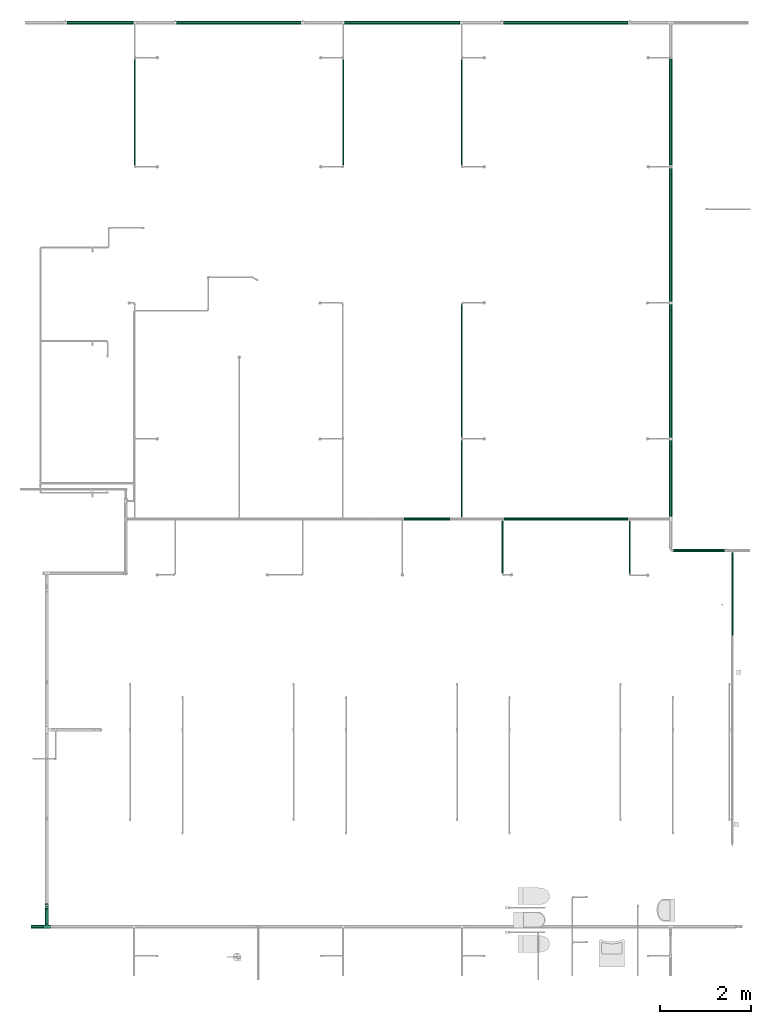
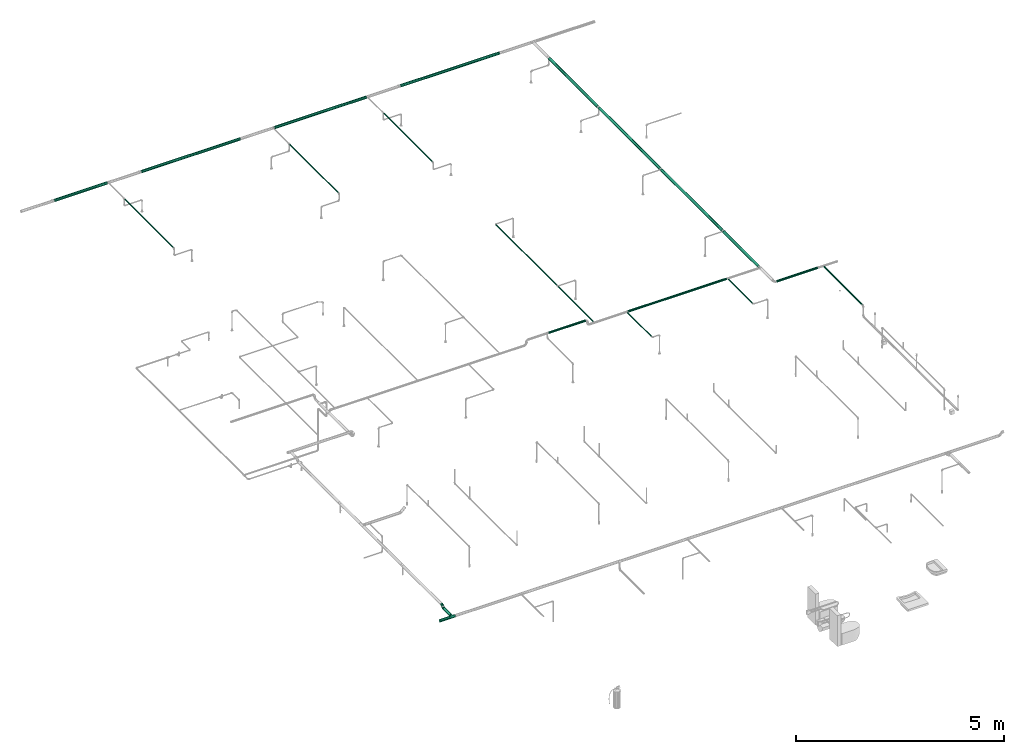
# One storey, part 2 of 95: 21 flow segments, 3 flow fittings.
"""IFC2X3 building model written with IfcOpenShell, lengths in millimetres."""

from ifc_helpers import new_model, entity, si_unit, converted_unit, derived_unit, direction, frame, origin_with_axes, origin_2d_with_axis, place, context, subcontext, project, spatial, hollow_circle, extrude, open_shell, surface_model, source, transform, mapped, type_object, element, save


model = new_model("IFC2X3")

# Units and contexts
model_context = context("Model", 3, precision=0.01, world=frame((0.0, 4.29681676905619e-09, 0.0)), true_north=direction((4.01073788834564e-13, 1.0)))
plan_context = context("Plan", 3, precision=0.01, world=frame((0.0, 4.29681676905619e-09, 0.0)), true_north=direction((4.01073788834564e-13, 1.0)))
body_context = subcontext(model_context, "Body", "Model", "MODEL_VIEW")
ifc_project = project(units=[converted_unit("PLANEANGLEUNIT", "DEGREE", entity("IfcPositiveLengthMeasure", 0.0174532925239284), si_unit("PLANEANGLEUNIT", "RADIAN"), dimensions=[0, 0, 0, 0, 0, 0, 0]), si_unit("AREAUNIT", "SQUARE_METRE"), si_unit("LENGTHUNIT", "METRE", prefix="MILLI"), si_unit("MASSUNIT", "GRAM", prefix="KILO"), si_unit("POWERUNIT", "WATT"), si_unit("PRESSUREUNIT", "PASCAL"), si_unit("FORCEUNIT", "NEWTON", prefix="KILO"), si_unit("ELECTRICVOLTAGEUNIT", "VOLT"), si_unit("ELECTRICCURRENTUNIT", "AMPERE"), si_unit("THERMODYNAMICTEMPERATUREUNIT", "DEGREE_CELSIUS"), si_unit("TIMEUNIT", "SECOND"), si_unit("VOLUMEUNIT", "CUBIC_METRE"), derived_unit("LINEARVELOCITYUNIT", [(si_unit("LENGTHUNIT", "METRE"), 1), (si_unit("TIMEUNIT", "SECOND"), -1)]), derived_unit("VOLUMETRICFLOWRATEUNIT", [(si_unit("VOLUMEUNIT", "CUBIC_METRE"), 1), (si_unit("TIMEUNIT", "SECOND"), -1)]), derived_unit("THERMALTRANSMITTANCEUNIT", [(si_unit("POWERUNIT", "WATT"), 1), (si_unit("THERMODYNAMICTEMPERATUREUNIT", "KELVIN"), -1), (si_unit("AREAUNIT", "SQUARE_METRE"), -1)]), derived_unit("SOUNDPRESSUREUNIT", [(si_unit("PRESSUREUNIT", "PASCAL"), 1)])], contexts=[model_context, plan_context])

# Site, building, storey
site_placement = place(None, frame((0.0, -4.29681676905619e-09, 0.0), z_axis=(0.0, 0.0, 1.0), x_axis=(1.0, 0.0, 0.0)))
site = spatial("IfcSite", under=ifc_project, at=site_placement, CompositionType="ELEMENT")
building_placement = place(site_placement, frame((0.0, 4.29681676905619e-09, 0.0), z_axis=(0.0, 0.0, 1.0), x_axis=(1.0, 0.0, 0.0)))
building = spatial("IfcBuilding", under=site, at=building_placement, Name="mc-building", CompositionType="ELEMENT")
storey_placement = place(building_placement, frame((0.0, 0.0, 210900.0), z_axis=(0.0, 0.0, 1.0), x_axis=(1.0, 0.0, 0.0)))
storey = spatial("IfcBuildingStorey", under=building, at=storey_placement, Name="Nivå F", CompositionType="ELEMENT", Elevation=210900.0)

# Flow fittings
pipe_fitting_type_1 = type_object("IfcPipeFittingType", Name="magi_pipe_fe_tee_centric_90_NOR", PredefinedType="JUNCTION")
shared_shape_1 = source(origin_with_axes(), body_context, "Body", "SurfaceModel", [
    surface_model("IfcShellBasedSurfaceModel", [(-76.2, 19.05, -32.99557), (-76.2, 9.86101, -36.80177), (-76.2, 0.0, -38.1), (-76.2, 26.94077, -26.94077), (-76.2, 36.80177, -9.86101), (-76.2, 32.99557, -19.05), (-76.2, -19.05, -32.99557), (-76.2, -26.94077, -26.94077), (-76.2, -9.86101, -36.80177), (-76.2, 38.1, 0.0), (-76.2, 36.80177, 9.86101), (-76.2, -38.1, 0.0), (-76.2, -36.80177, -9.86101), (-76.2, -32.99557, -19.05), (-76.2, 32.99557, 19.05), (-76.2, -36.80177, 9.86101), (-76.2, 19.05, 32.99557), (-76.2, 26.94077, 26.94077), (-76.2, 0.0, 38.1), (-76.2, 9.86101, 36.80177), (-76.2, -26.94077, 26.94077), (-76.2, -32.99557, 19.05), (-76.2, -9.86101, 36.80177), (-76.2, -19.05, 32.99557), (76.2, 0.0, -38.1), (76.2, -36.80177, 9.86101), (76.2, -38.1, 0.0), (76.2, 36.80177, -9.86101), (76.2, 9.86101, -36.80177), (76.2, 19.05, -32.99557), (76.2, 26.94077, -26.94077), (76.2, 32.99557, -19.05), (76.2, -9.86101, -36.80177), (76.2, -26.94077, -26.94077), (76.2, -19.05, -32.99557), (76.2, -32.99557, -19.05), (76.2, -36.80177, -9.86101), (76.2, 19.05, 32.99557), (76.2, 36.80177, 9.86101), (76.2, 32.99557, 19.05), (76.2, 0.0, 38.1), (76.2, 26.94077, 26.94077), (76.2, 9.86101, 36.80177), (76.2, -32.99557, 19.05), (76.2, -26.94077, 26.94077), (76.2, -19.05, 32.99557), (76.2, -9.86101, 36.80177), (76.2, 38.1, 0.0), (37.03376, -37.03376, 8.95045), (38.1, -38.1, 0.0), (76.2, -34.89867, 14.4555), (35.56052, -35.56052, 12.98504), (34.08727, -34.08727, 17.01964), (18.8305, -18.8305, 33.12132), (76.2, -22.99539, 29.96817), (29.78269, -29.78269, 23.76134), (76.2, -29.96817, 22.99539), (24.5894, -24.5894, 29.10277), (-35.56052, -35.56052, 12.98504), (-76.2, -34.89867, 14.4555), (-34.08727, -34.08727, 17.01964), (-37.03376, -37.03376, 8.95045), (-38.1, -38.1, 0.0), (-18.8305, -18.8305, 33.12132), (-76.2, -22.99539, 29.96817), (-29.78269, -29.78269, 23.76134), (-24.5894, -24.5894, 29.10277), (-76.2, -29.96817, 22.99539), (-12.71924, -12.71924, 35.91422), (6.40528, -6.40528, 37.55772), (12.71924, -12.71924, 35.91422), (0.0, 0.0, 38.1), (-6.40528, -6.40528, 37.55772), (6.40528, -6.40528, -37.55772), (0.0, 0.0, -38.1), (12.71924, -12.71924, -35.91422), (-24.5894, -24.5894, -29.10277), (-76.2, -22.99539, -29.96817), (-35.56052, -35.56052, -12.98504), (-37.03376, -37.03376, -8.95045), (-29.78269, -29.78269, -23.76134), (-76.2, -29.96817, -22.99539), (-6.40528, -6.40528, -37.55772), (-12.71924, -12.71924, -35.91422), (18.8305, -18.8305, -33.12132), (76.2, -22.99539, -29.96817), (24.5894, -24.5894, -29.10277), (-76.2, -34.89867, -14.4555), (-34.08727, -34.08727, -17.01964), (29.78269, -29.78269, -23.76134), (76.2, -29.96817, -22.99539), (37.03376, -37.03376, -8.95045), (35.56052, -35.56052, -12.98504), (34.08727, -34.08727, -17.01964), (76.2, -34.89867, -14.4555), (-18.8305, -18.8305, -33.12132), (0.0, -57.15, -38.1), (9.86101, -57.15, -36.80177), (19.05, -57.15, -32.99557), (26.94077, -57.15, -26.94077), (32.99557, -57.15, -19.05), (36.80177, -57.15, -9.86101), (0.0, -57.15, 38.1), (-26.94077, -57.15, -26.94077), (-9.86101, -57.15, -36.80177), (-19.05, -57.15, -32.99557), (-36.80177, -57.15, -9.86101), (-32.99557, -57.15, -19.05), (-32.99557, -57.15, 19.05), (-36.80177, -57.15, 9.86101), (-38.1, -57.15, 0.0), (19.05, -57.15, 32.99557), (36.80177, -57.15, 9.86101), (32.99557, -57.15, 19.05), (26.94077, -57.15, 26.94077), (9.86101, -57.15, 36.80177), (-26.94077, -57.15, 26.94077), (-19.05, -57.15, 32.99557), (-9.86101, -57.15, 36.80177), (38.1, -57.15, 0.0)], [open_shell([[[0, 1, 2]], [[3, 0, 2]], [[4, 5, 3]], [[6, 7, 8]], [[9, 4, 10]], [[11, 3, 2]], [[4, 3, 11]], [[11, 8, 7]], [[12, 11, 13]], [[7, 13, 11]], [[11, 2, 8]], [[11, 10, 4]], [[14, 10, 11]], [[14, 11, 15]], [[15, 16, 14]], [[17, 14, 16]], [[18, 19, 16]], [[20, 18, 21]], [[15, 21, 18]], [[22, 18, 23]], [[20, 23, 18]], [[18, 16, 15]], [[24, 25, 26]], [[27, 28, 29]], [[30, 31, 27]], [[30, 27, 29]], [[28, 25, 24]], [[32, 33, 34]], [[32, 24, 33]], [[35, 26, 36]], [[26, 35, 33]], [[24, 26, 33]], [[28, 27, 37]], [[27, 38, 37]], [[37, 38, 39]], [[37, 40, 28]], [[37, 39, 41]], [[40, 37, 42]], [[43, 40, 44]], [[25, 28, 43]], [[45, 40, 46]], [[40, 45, 44]], [[40, 43, 28]], [[38, 27, 47]], [[26, 25, 48]], [[48, 49, 26]], [[25, 50, 51]], [[50, 43, 52]], [[45, 53, 54]], [[44, 55, 56]], [[55, 44, 57]], [[43, 55, 52]], [[57, 44, 54]], [[15, 58, 59]], [[60, 59, 58]], [[61, 11, 62]], [[11, 61, 15]], [[15, 61, 58]], [[63, 23, 64]], [[65, 66, 20]], [[65, 67, 21]], [[20, 66, 64]], [[63, 68, 23]], [[65, 21, 60]], [[50, 52, 51]], [[54, 53, 57]], [[46, 40, 69]], [[25, 51, 48]], [[53, 45, 70]], [[69, 70, 46]], [[65, 20, 67]], [[69, 40, 71]], [[70, 45, 46]], [[14, 41, 39]], [[10, 39, 38]], [[16, 42, 37]], [[17, 37, 41]], [[42, 71, 40]], [[9, 38, 47]], [[72, 71, 18]], [[60, 21, 59]], [[72, 22, 68]], [[22, 72, 18]], [[22, 23, 68]], [[71, 19, 18]], [[63, 64, 66]], [[42, 19, 71]], [[16, 19, 42]], [[16, 37, 17]], [[14, 17, 41]], [[10, 14, 39]], [[38, 9, 10]], [[55, 43, 56]], [[3, 31, 30]], [[4, 27, 31]], [[9, 47, 27]], [[0, 30, 29]], [[24, 32, 73]], [[28, 24, 74]], [[73, 32, 75]], [[76, 7, 77]], [[29, 28, 1]], [[32, 34, 75]], [[24, 73, 74]], [[4, 31, 5]], [[0, 3, 30]], [[5, 31, 3]], [[9, 27, 4]], [[12, 78, 79]], [[80, 13, 81]], [[82, 83, 8]], [[74, 82, 2]], [[74, 2, 1]], [[2, 82, 8]], [[83, 6, 8]], [[1, 0, 29]], [[74, 1, 28]], [[84, 85, 86]], [[85, 33, 86]], [[87, 88, 78]], [[84, 34, 85]], [[89, 86, 33]], [[90, 35, 89]], [[34, 84, 75]], [[36, 91, 92]], [[91, 36, 26]], [[93, 94, 92]], [[49, 91, 26]], [[35, 93, 89]], [[76, 77, 95]], [[36, 92, 94]], [[77, 6, 95]], [[7, 76, 80]], [[7, 80, 81]], [[93, 35, 94]], [[95, 6, 83]], [[79, 62, 11]], [[12, 87, 78]], [[88, 87, 13]], [[12, 79, 11]], [[88, 13, 80]], [[89, 33, 90]], [[96, 97, 98]], [[96, 98, 99]], [[99, 100, 101]], [[99, 101, 96]], [[102, 103, 96]], [[104, 103, 105]], [[104, 96, 103]], [[103, 106, 107]], [[103, 108, 106]], [[106, 109, 110]], [[111, 96, 101]], [[112, 113, 101]], [[101, 113, 111]], [[111, 102, 96]], [[111, 113, 114]], [[102, 111, 115]], [[108, 102, 116]], [[109, 106, 108]], [[117, 102, 118]], [[102, 117, 116]], [[102, 108, 103]], [[112, 101, 119]], [[61, 62, 110]], [[109, 61, 110]], [[116, 117, 66]], [[65, 108, 116]], [[60, 109, 108]], [[68, 117, 118]], [[60, 61, 109]], [[66, 65, 116]], [[60, 108, 65]], [[68, 63, 117]], [[102, 71, 72]], [[68, 118, 72]], [[66, 117, 63]], [[72, 118, 102]], [[69, 102, 115]], [[111, 70, 115]], [[113, 112, 52]], [[55, 114, 113]], [[57, 111, 114]], [[48, 112, 119]], [[57, 53, 111]], [[70, 69, 115]], [[53, 70, 111]], [[49, 48, 119]], [[52, 55, 113]], [[48, 52, 112]], [[57, 114, 55]], [[102, 69, 71]], [[49, 119, 91]], [[101, 91, 119]], [[89, 100, 99]], [[99, 98, 86]], [[93, 101, 100]], [[75, 98, 97]], [[93, 91, 101]], [[86, 89, 99]], [[93, 100, 89]], [[75, 84, 98]], [[96, 74, 73]], [[75, 97, 73]], [[86, 98, 84]], [[73, 97, 96]], [[82, 96, 104]], [[105, 83, 104]], [[107, 106, 88]], [[80, 103, 107]], [[76, 105, 103]], [[79, 106, 110]], [[76, 95, 105]], [[83, 82, 104]], [[95, 83, 105]], [[62, 79, 110]], [[88, 80, 107]], [[79, 88, 106]], [[76, 103, 80]], [[96, 82, 74]]])]),
])
flow_fitting_placement = place(storey_placement, frame((520864.85321, 441860.92369, 4310.0), z_axis=(0.0, 0.0, 1.0), x_axis=(-1.0, 0.0, 0.0)))
element("IfcFlowFitting", 1, at=flow_fitting_placement, inside=storey, type_object=pipe_fitting_type_1, Name="magi_pipe_fe_tee_centric_90_NOR", context=body_context, shape_type="MappedRepresentation", body=[
    mapped(shared_shape_1, transform((0.0, 0.0, 0.0), scale=1.0)),
])
pipe_fitting_type_2 = type_object("IfcPipeFittingType", Name="magi_pipe_fe_elbow_short_001", PredefinedType="BEND")
shared_shape_2 = source(origin_with_axes(), body_context, "Body", "SurfaceModel", [
    surface_model("IfcShellBasedSurfaceModel", [(-31.56307, 19.05, -32.99557), (-31.56307, 9.86101, -36.80177), (-31.56307, 0.0, -38.1), (-31.56307, 26.94077, -26.94077), (-31.56307, 36.80177, -9.86101), (-31.56307, 32.99557, -19.05), (-31.56307, -36.80177, 9.86101), (-31.56307, -9.86101, -36.80177), (-31.56307, -26.94077, -26.94077), (-31.56307, -32.99557, -19.05), (-31.56307, -19.05, -32.99557), (-31.56307, -36.80177, -9.86101), (-31.56307, -38.1, 0.0), (-31.56307, 36.80177, 9.86101), (-31.56307, 26.94077, 26.94077), (-31.56307, 32.99557, 19.05), (-31.56307, 9.86101, 36.80177), (-31.56307, 19.05, 32.99557), (-31.56307, -19.05, 32.99557), (-31.56307, 0.0, 38.1), (-31.56307, -32.99557, 19.05), (-31.56307, -26.94077, 26.94077), (-31.56307, -9.86101, 36.80177), (-31.56307, 38.1, 0.0), (15.34568, 29.29125, -36.80177), (29.29125, 15.34568, -36.80177), (22.31846, 22.31846, -38.1), (3.26846, 41.36846, -26.94077), (8.84808, 35.78885, -32.99557), (-1.01293, 45.64985, -19.05), (-3.70432, 48.34125, -9.86101), (41.36846, 3.26846, -26.94077), (48.34125, -3.70432, 9.86101), (48.34125, -3.70432, -9.86101), (35.78885, 8.84808, -32.99557), (45.64985, -1.01293, 19.05), (45.64985, -1.01293, -19.05), (49.25923, -4.62231, 0.0), (22.31846, 22.31846, 38.1), (15.34568, 29.29125, 36.80177), (-4.62231, 49.25923, 0.0), (-3.70432, 48.34125, 9.86101), (-1.01293, 45.64985, 19.05), (3.26846, 41.36846, 26.94077), (8.84808, 35.78885, 32.99557), (35.78885, 8.84808, 32.99557), (41.36846, 3.26846, 26.94077), (29.29125, 15.34568, 36.80177), (9.70384, -23.42713, 21.23198), (-8.42903, -21.53324, 29.39945), (-12.30295, -29.13928, 22.30902), (-12.72994, -35.62057, 0.0), (-1.98006, -34.20532, 0.0), (-8.1322, -35.10083, 6.50594), (29.30408, -11.90509, 22.30902), (-15.09665, -13.97095, 34.82144), (3.91202, -9.44444, 34.34139), (1.1309, 22.90491, 35.56093), (6.8876, 18.03483, 37.54584), (-11.37114, -3.66836, 37.59524), (-10.82238, 26.12754, 31.10505), (-16.802, 31.95247, 24.04366), (20.5539, 0.79599, 34.82144), (-19.08985, 5.27957, 37.86879), (-14.63922, 15.85445, 35.61813), (14.70349, -24.93596, 15.0155), (-6.83146, -32.96227, 13.23115), (11.82908, -28.55793, 8.28106), (-15.69549, 37.89226, 15.65312), (30.57037, -19.0697, 6.50594), (34.18897, -16.18612, 0.0), (-15.26074, 40.82522, 8.00526), (28.13842, -18.47728, 13.23115), (10.63454, 5.44669, 37.59524), (21.18653, -9.26608, 29.39945), (-16.98283, 41.00019, 0.0), (6.39501, -15.43892, 30.38264), (11.80343, -28.49601, 0.0), (25.58693, -22.7867, 0.0), (-11.37114, -3.66836, -37.59524), (-8.1322, -35.10083, -6.50594), (11.82908, -28.55793, -8.28105), (10.63454, 5.44669, -37.59524), (-16.99589, 15.39655, -35.56093), (-17.62282, 7.88229, -37.54584), (-10.713, 34.47461, -24.04366), (21.18653, -9.26608, -29.39945), (-15.69549, 37.89226, -15.65312), (28.13842, -18.47728, -13.23115), (-18.07682, 39.65877, -8.00526), (-0.8593, 21.56228, -35.61813), (-6.83146, -32.96227, -13.23115), (-10.82238, 26.12754, -31.10505), (-12.30295, -29.13928, -22.30902), (-8.42903, -21.53324, -29.39945), (6.39501, -15.43891, -30.38262), (9.70384, -23.42713, -21.23198), (-15.09665, -13.97095, -34.82144), (20.5539, 0.79599, -34.82144), (3.91202, -9.44444, -34.34139), (30.57037, -19.0697, -6.50594), (9.76534, 17.23178, -37.86879), (7.23544, -28.02932, -15.0155), (29.30408, -11.90509, -22.30902), (-3.62384, 8.7487, -37.96612), (-3.62383, 8.74869, 37.96612)], [open_shell([[[0, 1, 2]], [[3, 0, 2]], [[4, 5, 3]], [[6, 3, 2]], [[6, 2, 7]], [[8, 9, 10]], [[10, 9, 6]], [[11, 12, 9]], [[9, 12, 6]], [[10, 6, 7]], [[3, 6, 4]], [[13, 4, 14]], [[15, 13, 14]], [[16, 17, 14]], [[18, 14, 4]], [[16, 14, 19]], [[20, 21, 6]], [[6, 21, 4]], [[22, 19, 18]], [[18, 4, 21]], [[14, 18, 19]], [[23, 4, 13]], [[24, 25, 26]], [[27, 24, 28]], [[27, 29, 30]], [[24, 27, 25]], [[30, 25, 27]], [[31, 32, 33]], [[31, 34, 35]], [[31, 33, 36]], [[37, 33, 32]], [[38, 34, 25]], [[25, 30, 39]], [[40, 41, 42]], [[42, 43, 30]], [[43, 44, 39]], [[39, 30, 43]], [[39, 38, 25]], [[35, 45, 46]], [[32, 31, 35]], [[45, 38, 47]], [[38, 45, 35]], [[38, 35, 34]], [[30, 40, 42]], [[48, 49, 50]], [[51, 52, 53]], [[18, 21, 49]], [[35, 46, 54]], [[55, 49, 56]], [[50, 49, 21]], [[39, 57, 58]], [[22, 18, 55]], [[19, 22, 59]], [[14, 60, 61]], [[45, 47, 62]], [[63, 16, 19]], [[17, 64, 60]], [[6, 51, 53]], [[44, 43, 60]], [[65, 66, 67]], [[60, 14, 17]], [[21, 20, 50]], [[15, 61, 68]], [[13, 15, 68]], [[32, 69, 70]], [[71, 23, 13]], [[72, 65, 67]], [[66, 53, 67]], [[17, 16, 64]], [[38, 58, 73]], [[46, 45, 74]], [[42, 41, 68]], [[73, 47, 38]], [[48, 50, 66]], [[46, 74, 54]], [[74, 45, 62]], [[20, 66, 50]], [[69, 32, 72]], [[48, 54, 74]], [[63, 64, 16]], [[48, 65, 54]], [[13, 68, 71]], [[20, 6, 66]], [[75, 71, 40]], [[49, 76, 56]], [[41, 71, 68]], [[56, 73, 59]], [[42, 68, 61]], [[56, 62, 73]], [[42, 61, 43]], [[39, 44, 57]], [[57, 60, 64]], [[55, 59, 22]], [[15, 14, 61]], [[72, 32, 35]], [[72, 35, 54]], [[76, 48, 74]], [[43, 61, 60]], [[60, 57, 44]], [[49, 55, 18]], [[59, 55, 56]], [[73, 62, 47]], [[74, 62, 56]], [[6, 12, 51]], [[67, 52, 77]], [[6, 53, 66]], [[52, 67, 53]], [[69, 67, 78]], [[70, 69, 78]], [[70, 37, 32]], [[67, 69, 72]], [[38, 39, 58]], [[59, 63, 19]], [[48, 76, 49]], [[74, 56, 76]], [[40, 71, 41]], [[71, 75, 23]], [[54, 65, 72]], [[66, 65, 48]], [[78, 67, 77]], [[7, 2, 79]], [[52, 80, 81]], [[26, 25, 82]], [[83, 84, 1]], [[5, 85, 3]], [[34, 31, 86]], [[87, 85, 5]], [[36, 33, 88]], [[4, 89, 87]], [[28, 24, 90]], [[11, 80, 51]], [[0, 83, 1]], [[80, 11, 91]], [[27, 92, 85]], [[91, 9, 93]], [[93, 8, 94]], [[8, 10, 94]], [[95, 96, 94]], [[11, 9, 91]], [[8, 93, 9]], [[97, 10, 7]], [[98, 82, 25]], [[30, 29, 87]], [[99, 97, 79]], [[23, 75, 89]], [[96, 93, 94]], [[40, 30, 89]], [[99, 79, 82]], [[27, 28, 92]], [[87, 5, 4]], [[29, 85, 87]], [[97, 94, 10]], [[90, 92, 28]], [[84, 79, 2]], [[92, 90, 83]], [[3, 92, 0]], [[33, 70, 100]], [[101, 24, 26]], [[98, 25, 34]], [[102, 88, 81]], [[31, 103, 86]], [[99, 98, 86]], [[31, 36, 103]], [[104, 101, 82]], [[103, 96, 86]], [[104, 82, 79]], [[100, 70, 78]], [[101, 90, 24]], [[104, 84, 83]], [[80, 91, 81]], [[96, 102, 93]], [[86, 95, 99]], [[36, 88, 103]], [[30, 87, 89]], [[96, 103, 88]], [[29, 27, 85]], [[3, 85, 92]], [[92, 83, 0]], [[104, 83, 90]], [[79, 97, 7]], [[94, 97, 99]], [[86, 98, 34]], [[82, 98, 99]], [[51, 80, 52]], [[51, 12, 11]], [[102, 81, 91]], [[100, 81, 88]], [[81, 78, 77]], [[33, 37, 70]], [[81, 100, 78]], [[33, 100, 88]], [[79, 84, 104]], [[2, 1, 84]], [[82, 101, 26]], [[90, 101, 104]], [[96, 95, 86]], [[94, 99, 95]], [[23, 89, 4]], [[89, 75, 40]], [[93, 102, 91]], [[88, 102, 96]], [[52, 81, 77]], [[59, 105, 63]], [[105, 58, 57]], [[105, 59, 73]], [[105, 57, 64]], [[73, 58, 105]], [[64, 63, 105]]])]),
])
for number, where, z_axis, x_axis, name in (
    (2, (520864.85321, 442274.42405, 4310.0), (-1.0, 0.0, 0.0), (0.0, -0.707106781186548, -0.707106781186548), "magi_pipe_fe_elbow_short_001"),
    (3, (520864.85321, 442334.72405, 4370.29999999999), (1.0, 0.0, 0.0), (0.0, -1.0, 0.0), "magi_pipe_fe_elbow_short_001"),
):
    element("IfcFlowFitting", number, at=place(storey_placement, frame(where, z_axis=z_axis, x_axis=x_axis)), inside=storey, type_object=pipe_fitting_type_2, Name=name, context=body_context, shape_type="MappedRepresentation", body=[
        mapped(shared_shape_2, transform((0.0, 0.0, 0.0), scale=1.0)),
    ])

# Flow segments
pipe_segment_type = type_object("IfcPipeSegmentType", Name="Stålrør normaltykke", PredefinedType="RIGIDSEGMENT")
shared_shape_3 = source(origin_with_axes(), body_context, "Body", "SweptSolid", [
    extrude(hollow_circle(Radius=38.0, WallThickness=2.0, at=origin_2d_with_axis()), frame((0.0, 0.0, 0.0), z_axis=(1.0, 0.0, 0.0), x_axis=(0.0, 1.0, 0.0)), (0.0, 0.0, 1.0), 270.3),
])
flow_segment_1_placement = place(storey_placement, frame((520518.38698, 441860.92369, 4310.0), z_axis=(0.0, 0.0, 1.0), x_axis=(1.0, 0.0, 0.0)))
element("IfcFlowSegment", 4, at=flow_segment_1_placement, inside=storey, type_object=pipe_segment_type, Name="Stålrør normaltykke", context=body_context, shape_type="MappedRepresentation", body=[
    mapped(shared_shape_3, transform((0.0, 0.0, 0.0), scale=1.0)),
])
shared_shape_4 = source(origin_with_axes(), body_context, "Body", "SweptSolid", [
    extrude(hollow_circle(Radius=16.9, WallThickness=2.0, at=origin_2d_with_axis()), frame((0.0, 0.0, 0.0), z_axis=(1.0, 0.0, 0.0), x_axis=(0.0, 1.0, 0.0)), (0.0, 0.0, 1.0), 2335.1),
])
for number, where, z_axis, x_axis in (
    (5, (522802.76487, 460966.95899, 4310.0), (0.0, 0.0, 1.0), (0.0, -1.0, 0.0)),
    (6, (527387.9, 460966.95899, 4310.0), (0.0, 0.0, 1.0), (0.0, -1.0, 0.0)),
    (7, (530002.76487, 460966.95899, 4310.0), (0.0, 0.0, 1.0), (0.0, -1.0, 0.0)),
):
    element("IfcFlowSegment", number, at=place(storey_placement, frame(where, z_axis=z_axis, x_axis=x_axis)), inside=storey, type_object=pipe_segment_type, Name="Stålrør normaltykke", context=body_context, shape_type="MappedRepresentation", body=[
        mapped(shared_shape_4, transform((0.0, 0.0, 0.0), scale=1.0)),
    ])
shared_shape_5 = source(origin_with_axes(), body_context, "Body", "SweptSolid", [
    extrude(hollow_circle(Radius=38.0, WallThickness=2.0, at=origin_2d_with_axis()), frame((0.0, 0.0, 0.0), z_axis=(1.0, 0.0, 0.0), x_axis=(0.0, 1.0, 0.0)), (0.0, 0.0, 1.0), 1465.9),
])
flow_segment_2_placement = place(storey_placement, frame((521303.0257, 461774.3, 4310.0), z_axis=(0.0, 0.0, 1.0), x_axis=(1.0, 0.0, 0.0)))
element("IfcFlowSegment", 8, at=flow_segment_2_placement, inside=storey, type_object=pipe_segment_type, Name="Stålrør normaltykke", context=body_context, shape_type="MappedRepresentation", body=[
    mapped(shared_shape_5, transform((0.0, 0.0, 0.0), scale=1.0)),
])
shared_shape_6 = source(origin_with_axes(), body_context, "Body", "SweptSolid", [
    extrude(hollow_circle(Radius=30.1, WallThickness=2.0, at=origin_2d_with_axis()), frame((0.0, 0.0, 0.0), z_axis=(1.0, 0.0, 0.0), x_axis=(0.0, 1.0, 0.0)), (0.0, 0.0, 1.0), 1130.2),
])
flow_segment_3_placement = place(storey_placement, frame((535793.34809, 450142.9624, 4310.0), z_axis=(0.0, 0.0, 1.0), x_axis=(-1.0, 0.0, 0.0)))
element("IfcFlowSegment", 9, at=flow_segment_3_placement, inside=storey, type_object=pipe_segment_type, Name="Stålrør normaltykke", context=body_context, shape_type="MappedRepresentation", body=[
    mapped(shared_shape_6, transform((0.0, 0.0, 0.0), scale=1.0)),
])
shared_shape_7 = source(origin_with_axes(), body_context, "Body", "SweptSolid", [
    extrude(hollow_circle(Radius=38.0, WallThickness=2.0, at=origin_2d_with_axis()), frame((0.0, 0.0, 0.0), z_axis=(1.0, 0.0, 0.0), x_axis=(0.0, 1.0, 0.0)), (0.0, 0.0, 1.0), 2925.3),
])
flow_segment_4_placement = place(storey_placement, frame((534602.7875, 452638.91719, 4310.0), z_axis=(0.0, 0.0, 1.0), x_axis=(0.0, 1.0, 0.0)))
element("IfcFlowSegment", 10, at=flow_segment_4_placement, inside=storey, type_object=pipe_segment_type, Name="Stålrør normaltykke", context=body_context, shape_type="MappedRepresentation", body=[
    mapped(shared_shape_7, transform((0.0, 0.0, 0.0), scale=1.0)),
])
shared_shape_8 = source(origin_with_axes(), body_context, "Body", "SweptSolid", [
    extrude(hollow_circle(Radius=16.9, WallThickness=2.0, at=origin_2d_with_axis()), frame((0.0, 0.0, 0.0), z_axis=(1.0, 0.0, 0.0), x_axis=(0.0, 1.0, 0.0)), (0.0, 0.0, 1.0), 1151.1),
])
flow_segment_5_placement = place(storey_placement, frame((530900.0, 450792.7, 4310.0), z_axis=(0.0, 0.0, 1.0), x_axis=(0.0, -1.0, 0.0)))
element("IfcFlowSegment", 11, at=flow_segment_5_placement, inside=storey, type_object=pipe_segment_type, Name="Stålrør normaltykke", context=body_context, shape_type="MappedRepresentation", body=[
    mapped(shared_shape_8, transform((0.0, 0.0, 0.0), scale=1.0)),
])
shared_shape_9 = source(origin_with_axes(), body_context, "Body", "SweptSolid", [
    extrude(hollow_circle(Radius=30.1, WallThickness=2.0, at=origin_2d_with_axis()), frame((0.0, 0.0, 0.0), z_axis=(1.0, 0.0, 0.0), x_axis=(0.0, 1.0, 0.0)), (0.0, 0.0, 1.0), 2732.2),
])
flow_segment_6_placement = place(storey_placement, frame((533666.01038, 450838.0, 4310.0), z_axis=(0.0, 0.0, 1.0), x_axis=(-1.0, 0.0, 0.0)))
element("IfcFlowSegment", 12, at=flow_segment_6_placement, inside=storey, type_object=pipe_segment_type, Name="Stålrør normaltykke", context=body_context, shape_type="MappedRepresentation", body=[
    mapped(shared_shape_9, transform((0.0, 0.0, 0.0), scale=1.0)),
])
shared_shape_10 = source(origin_with_axes(), body_context, "Body", "SweptSolid", [
    extrude(hollow_circle(Radius=38.0, WallThickness=2.0, at=origin_2d_with_axis()), frame((0.0, 0.0, 0.0), z_axis=(1.0, 0.0, 0.0), x_axis=(0.0, 1.0, 0.0)), (0.0, 0.0, 1.0), 2745.1),
])
for number, where, z_axis, x_axis in (
    (13, (523721.125, 461774.3, 4310.0), (0.0, 0.0, 1.0), (1.0, 0.0, 0.0)),
    (14, (530921.125, 461774.3, 4310.0), (0.0, 0.0, 1.0), (1.0, 0.0, 0.0)),
):
    element("IfcFlowSegment", number, at=place(storey_placement, frame(where, z_axis=z_axis, x_axis=x_axis)), inside=storey, type_object=pipe_segment_type, Name="Stålrør normaltykke", context=body_context, shape_type="MappedRepresentation", body=[
        mapped(shared_shape_10, transform((0.0, 0.0, 0.0), scale=1.0)),
    ])
shared_shape_11 = source(origin_with_axes(), body_context, "Body", "SweptSolid", [
    extrude(hollow_circle(Radius=38.0, WallThickness=2.0, at=origin_2d_with_axis()), frame((0.0, 0.0, 0.0), z_axis=(1.0, 0.0, 0.0), x_axis=(0.0, 1.0, 0.0)), (0.0, 0.0, 1.0), 2335.1),
])
flow_segment_7_placement = place(storey_placement, frame((534602.7875, 460966.95899, 4310.0), z_axis=(0.0, 0.0, 1.0), x_axis=(0.0, -1.0, 0.0)))
element("IfcFlowSegment", 15, at=flow_segment_7_placement, inside=storey, type_object=pipe_segment_type, Name="Stålrør normaltykke", context=body_context, shape_type="MappedRepresentation", body=[
    mapped(shared_shape_11, transform((0.0, 0.0, 0.0), scale=1.0)),
])
shared_shape_12 = source(origin_with_axes(), body_context, "Body", "SweptSolid", [
    extrude(hollow_circle(Radius=38.0, WallThickness=2.0, at=origin_2d_with_axis()), frame((0.0, 0.0, 0.0), z_axis=(1.0, 0.0, 0.0), x_axis=(0.0, 1.0, 0.0)), (0.0, 0.0, 1.0), 2547.3),
])
flow_segment_8_placement = place(storey_placement, frame((527421.7, 461774.3, 4310.0), z_axis=(0.0, 0.0, 1.0), x_axis=(1.0, 0.0, 0.0)))
element("IfcFlowSegment", 16, at=flow_segment_8_placement, inside=storey, type_object=pipe_segment_type, Name="Stålrør normaltykke", context=body_context, shape_type="MappedRepresentation", body=[
    mapped(shared_shape_12, transform((0.0, 0.0, 0.0), scale=1.0)),
])
shared_shape_13 = source(origin_with_axes(), body_context, "Body", "SweptSolid", [
    extrude(hollow_circle(Radius=38.0, WallThickness=2.0, at=origin_2d_with_axis()), frame((0.0, 0.0, 0.0), z_axis=(1.0, 0.0, 0.0), x_axis=(0.0, 1.0, 0.0)), (0.0, 0.0, 1.0), 2932.4),
])
flow_segment_9_placement = place(storey_placement, frame((534602.7875, 458564.22191, 4310.0), z_axis=(0.0, 0.0, 1.0), x_axis=(0.0, -1.0, 0.0)))
element("IfcFlowSegment", 17, at=flow_segment_9_placement, inside=storey, type_object=pipe_segment_type, Name="Stålrør normaltykke", context=body_context, shape_type="MappedRepresentation", body=[
    mapped(shared_shape_13, transform((0.0, 0.0, 0.0), scale=1.0)),
])
shared_shape_14 = source(origin_with_axes(), body_context, "Body", "SweptSolid", [
    extrude(hollow_circle(Radius=21.2, WallThickness=2.0, at=origin_2d_with_axis()), frame((0.0, 0.0, 0.0), z_axis=(1.0, 0.0, 0.0), x_axis=(0.0, 1.0, 0.0)), (0.0, 0.0, 1.0), 1829.1),
])
flow_segment_10_placement = place(storey_placement, frame((535962.24677, 450097.6624, 4310.0), z_axis=(0.0, 0.0, 1.0), x_axis=(0.0, -1.0, 0.0)))
element("IfcFlowSegment", 18, at=flow_segment_10_placement, inside=storey, type_object=pipe_segment_type, Name="Stålrør normaltykke", context=body_context, shape_type="MappedRepresentation", body=[
    mapped(shared_shape_14, transform((0.0, 0.0, 0.0), scale=1.0)),
])
shared_shape_15 = source(origin_with_axes(), body_context, "Body", "SweptSolid", [
    extrude(hollow_circle(Radius=16.9, WallThickness=2.0, at=origin_2d_with_axis()), frame((0.0, 0.0, 0.0), z_axis=(1.0, 0.0, 0.0), x_axis=(0.0, 1.0, 0.0)), (0.0, 0.0, 1.0), 1158.1),
])
flow_segment_11_placement = place(storey_placement, frame((533699.81038, 450792.7, 4310.0), z_axis=(0.0, 0.0, 1.0), x_axis=(0.0, -1.0, 0.0)))
element("IfcFlowSegment", 19, at=flow_segment_11_placement, inside=storey, type_object=pipe_segment_type, Name="Stålrør normaltykke", context=body_context, shape_type="MappedRepresentation", body=[
    mapped(shared_shape_15, transform((0.0, 0.0, 0.0), scale=1.0)),
])
shared_shape_16 = source(origin_with_axes(), body_context, "Body", "SweptSolid", [
    extrude(hollow_circle(Radius=16.9, WallThickness=2.0, at=origin_2d_with_axis()), frame((0.0, 0.0, 0.0), z_axis=(1.0, 0.0, 0.0), x_axis=(0.0, 1.0, 0.0)), (0.0, 0.0, 1.0), 2931.4),
])
flow_segment_12_placement = place(storey_placement, frame((530003.88278, 452637.31992, 4310.0), z_axis=(0.0, 0.0, 1.0), x_axis=(0.0, 1.0, 0.0)))
element("IfcFlowSegment", 20, at=flow_segment_12_placement, inside=storey, type_object=pipe_segment_type, Name="Stålrør normaltykke", context=body_context, shape_type="MappedRepresentation", body=[
    mapped(shared_shape_16, transform((0.0, 0.0, 0.0), scale=1.0)),
])
shared_shape_17 = source(origin_with_axes(), body_context, "Body", "SweptSolid", [
    extrude(hollow_circle(Radius=16.9, WallThickness=2.0, at=origin_2d_with_axis()), frame((0.0, 0.0, 0.0), z_axis=(1.0, 0.0, 0.0), x_axis=(0.0, 1.0, 0.0)), (0.0, 0.0, 1.0), 1686.4),
])
flow_segment_13_placement = place(storey_placement, frame((530003.88278, 450883.3, 4310.0), z_axis=(0.0, 0.0, 1.0), x_axis=(0.0, 1.0, 0.0)))
element("IfcFlowSegment", 21, at=flow_segment_13_placement, inside=storey, type_object=pipe_segment_type, Name="Stålrør normaltykke", context=body_context, shape_type="MappedRepresentation", body=[
    mapped(shared_shape_17, transform((0.0, 0.0, 0.0), scale=1.0)),
])
shared_shape_18 = source(origin_with_axes(), body_context, "Body", "SweptSolid", [
    extrude(hollow_circle(Radius=38.0, WallThickness=2.0, at=origin_2d_with_axis()), frame((0.0, 0.0, 0.0), z_axis=(1.0, 0.0, 0.0), x_axis=(0.0, 1.0, 0.0)), (0.0, 0.0, 1.0), 1672.9),
])
flow_segment_14_placement = place(storey_placement, frame((534602.7875, 450898.4, 4310.0), z_axis=(0.0, 0.0, 1.0), x_axis=(0.0, 1.0, 0.0)))
element("IfcFlowSegment", 22, at=flow_segment_14_placement, inside=storey, type_object=pipe_segment_type, Name="Stålrør normaltykke", context=body_context, shape_type="MappedRepresentation", body=[
    mapped(shared_shape_18, transform((0.0, 0.0, 0.0), scale=1.0)),
])
shared_shape_19 = source(origin_with_axes(), body_context, "Body", "SweptSolid", [
    extrude(hollow_circle(Radius=38.0, WallThickness=2.0, at=origin_2d_with_axis()), frame((0.0, 0.0, 0.0), z_axis=(1.0, 0.0, 0.0), x_axis=(0.0, 1.0, 0.0)), (0.0, 0.0, 1.0), 324.8),
])
flow_segment_15_placement = place(storey_placement, frame((520864.85321, 441918.07369, 4310.0), z_axis=(0.0, 0.0, 1.0), x_axis=(0.0, 1.0, 0.0)))
element("IfcFlowSegment", 23, at=flow_segment_15_placement, inside=storey, type_object=pipe_segment_type, Name="Stålrør normaltykke", context=body_context, shape_type="MappedRepresentation", body=[
    mapped(shared_shape_19, transform((0.0, 0.0, 0.0), scale=1.0)),
])
shared_shape_20 = source(origin_with_axes(), body_context, "Body", "SweptSolid", [
    extrude(hollow_circle(Radius=30.1, WallThickness=2.0, at=origin_2d_with_axis()), frame((0.0, 0.0, 0.0), z_axis=(1.0, 0.0, 0.0), x_axis=(0.0, 1.0, 0.0)), (0.0, 0.0, 1.0), 1019.6),
])
flow_segment_16_placement = place(storey_placement, frame((528728.06458, 450838.0, 4455.47503999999), z_axis=(0.0, 0.0, 1.0), x_axis=(1.0, 0.0, 0.0)))
element("IfcFlowSegment", 24, at=flow_segment_16_placement, inside=storey, type_object=pipe_segment_type, Name="Stålrør normaltykke", context=body_context, shape_type="MappedRepresentation", body=[
    mapped(shared_shape_20, transform((0.0, 0.0, 0.0), scale=1.0)),
])

save(model, "model.ifc")
